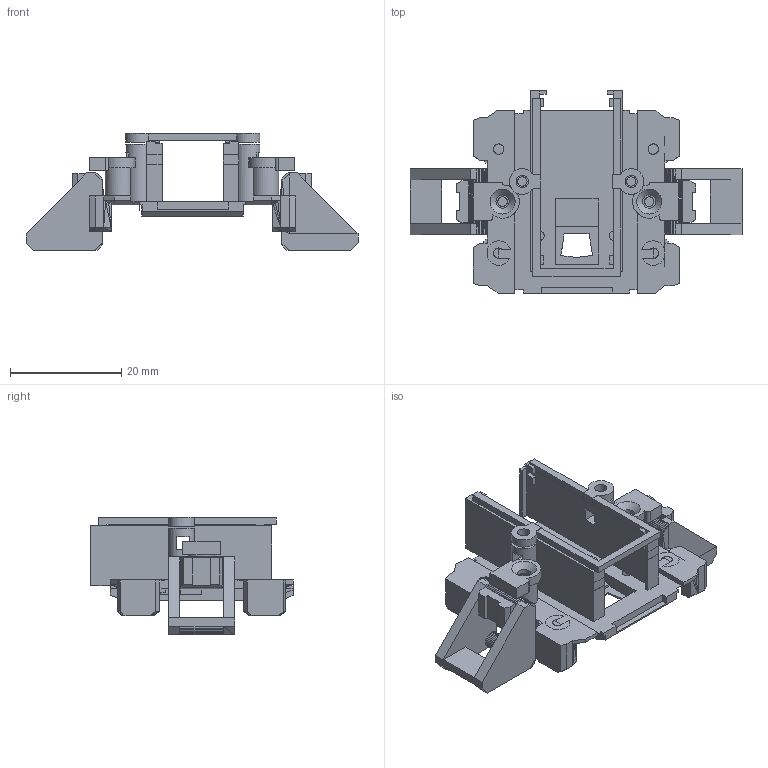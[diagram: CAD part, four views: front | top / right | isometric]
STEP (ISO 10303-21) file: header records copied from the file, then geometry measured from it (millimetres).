
FILE_DESCRIPTION(('Open CASCADE Model'),'2;1');
FILE_NAME('Open CASCADE Shape Model','2026-10-02T12:53:30',('Author'),( 'Open CASCADE'),'Open CASCADE STEP processor 7.9','Open CASCADE 7.9' ,'Unknown');
FILE_SCHEMA(('AUTOMOTIVE_DESIGN { 1 0 10303 214 1 1 1 1 }'));
Length unit declared in the file: millimetre
Products named in the file (7): Open CASCADE STEP translator 7.9 4; Open CASCADE STEP translator 7.9 4.1; Open CASCADE STEP translator 7.9 4.2; Open CASCADE STEP translator 7.9 4.3; Open CASCADE STEP translator 7.9 4.4; Open CASCADE STEP translator 7.9 4.5; Open CASCADE STEP translator 7.9 4.6
Assembly tree (6 placements, depth 2):
  Open CASCADE STEP translator 7.9 4
    Open CASCADE STEP translator 7.9 4.1
    Open CASCADE STEP translator 7.9 4.2
    Open CASCADE STEP translator 7.9 4.3
    Open CASCADE STEP translator 7.9 4.4
    Open CASCADE STEP translator 7.9 4.5
    Open CASCADE STEP translator 7.9 4.6
Bounding box: 59.78 x 36.41 x 21.16 mm (x, y, z)
Volume: 5971.4 mm3; surface area: 8367.2 mm2
Topology: 6 solids, 6 shells, 1556 faces, 3894 edges, 2354 vertices
Faces by surface type: plane 1522, cylinder 32, cone 2
Full cylindrical faces by diameter (mm): 1.7 x6, 2.2 x2, 2.4 x2
Entity records: 95318 total; most frequent: CARTESIAN_POINT 15773, DIRECTION 14822, LINE 11422, VECTOR 11422, ORIENTED_EDGE 7788, PCURVE 7788, DEFINITIONAL_REPRESENTATION 7788, EDGE_CURVE 3894
